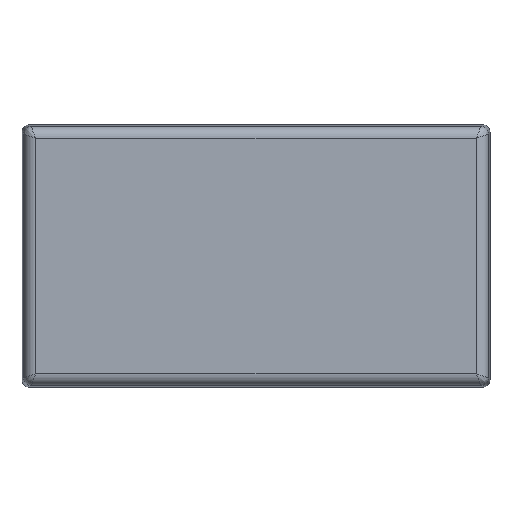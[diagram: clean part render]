
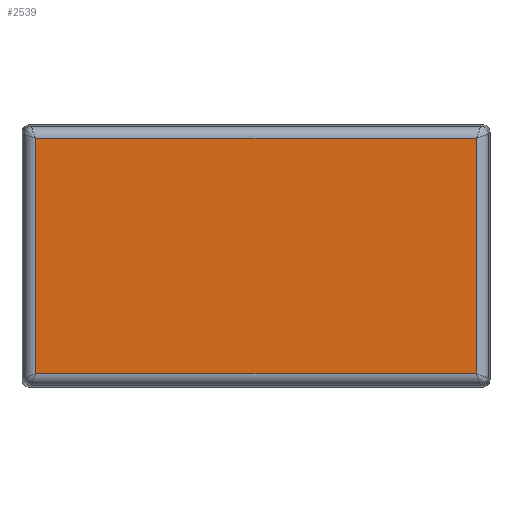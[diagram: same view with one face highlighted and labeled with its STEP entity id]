
A CAD part, front view. The second image highlights one B-rep face of the part: STEP entity #2539.
In plain terms, the highlighted planar face has unit normal (0, -1, 0).
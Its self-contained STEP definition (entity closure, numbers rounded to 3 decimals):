
#94 = ORIENTED_EDGE ( 'NONE', *, *, #1556, .T. ) ;
#97 = ORIENTED_EDGE ( 'NONE', *, *, #1588, .T. ) ;
#132 = ORIENTED_EDGE ( 'NONE', *, *, #1595, .T. ) ;
#134 = VERTEX_POINT ( 'NONE', #1340 ) ;
#171 = ORIENTED_EDGE ( 'NONE', *, *, #1607, .T. ) ;
#291 = CARTESIAN_POINT ( 'NONE',  ( -58.905, 0., 31.455 ) ) ;
#415 = LINE ( 'NONE', #2479, #1473 ) ;
#439 = VERTEX_POINT ( 'NONE', #2366 ) ;
#694 = AXIS2_PLACEMENT_3D ( 'NONE', #1758, #1737, #1265 ) ;
#992 = VECTOR ( 'NONE', #2575, 1000. ) ;
#1078 = VERTEX_POINT ( 'NONE', #291 ) ;
#1265 = DIRECTION ( 'NONE',  ( 0., 0., 1. ) ) ;
#1293 = VERTEX_POINT ( 'NONE', #1974 ) ;
#1340 = CARTESIAN_POINT ( 'NONE',  ( 58.905, 0., 31.455 ) ) ;
#1473 = VECTOR ( 'NONE', #2468, 1000. ) ;
#1556 = EDGE_CURVE ( 'NONE', #134, #1078, #2564, .T. ) ;
#1588 = EDGE_CURVE ( 'NONE', #1078, #1293, #415, .T. ) ;
#1595 = EDGE_CURVE ( 'NONE', #1293, #439, #2124, .T. ) ;
#1607 = EDGE_CURVE ( 'NONE', #439, #134, #2509, .T. ) ;
#1737 = DIRECTION ( 'NONE',  ( 0., 1., 0. ) ) ;
#1758 = CARTESIAN_POINT ( 'NONE',  ( 0., 0., 0. ) ) ;
#1855 = PLANE ( 'NONE',  #694 ) ;
#1974 = CARTESIAN_POINT ( 'NONE',  ( -58.905, 0., -31.455 ) ) ;
#2013 = VECTOR ( 'NONE', #2444, 1000. ) ;
#2052 = FACE_OUTER_BOUND ( 'NONE', #2342, .T. ) ;
#2124 = LINE ( 'NONE', #2542, #2013 ) ;
#2342 = EDGE_LOOP ( 'NONE', ( #94, #97, #132, #171 ) ) ;
#2366 = CARTESIAN_POINT ( 'NONE',  ( 58.905, 0., -31.455 ) ) ;
#2444 = DIRECTION ( 'NONE',  ( 1., 0., 0. ) ) ;
#2447 = CARTESIAN_POINT ( 'NONE',  ( 58.905, 0., 0. ) ) ;
#2451 = VECTOR ( 'NONE', #2474, 1000. ) ;
#2468 = DIRECTION ( 'NONE',  ( 0., 0., -1. ) ) ;
#2474 = DIRECTION ( 'NONE',  ( 0., 0., 1. ) ) ;
#2479 = CARTESIAN_POINT ( 'NONE',  ( -58.905, 0., 0. ) ) ;
#2509 = LINE ( 'NONE', #2447, #2451 ) ;
#2539 = ADVANCED_FACE ( 'NONE', ( #2052 ), #1855, .F. ) ;
#2542 = CARTESIAN_POINT ( 'NONE',  ( 0., 0., -31.455 ) ) ;
#2564 = LINE ( 'NONE', #2585, #992 ) ;
#2575 = DIRECTION ( 'NONE',  ( -1., 0., 0. ) ) ;
#2585 = CARTESIAN_POINT ( 'NONE',  ( 0., 0., 31.455 ) ) ;
